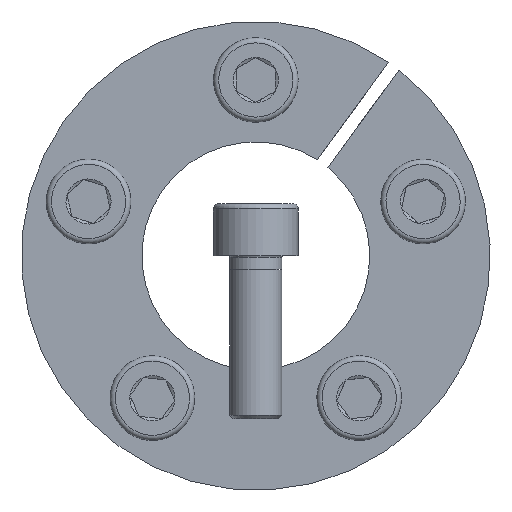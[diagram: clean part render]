
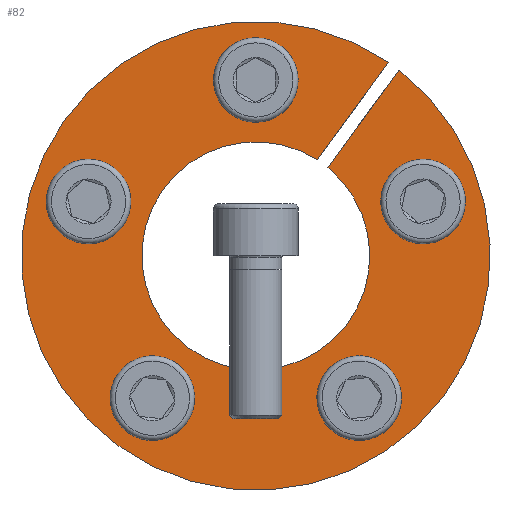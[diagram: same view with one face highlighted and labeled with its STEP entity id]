
A CAD part, front view. The second image highlights one B-rep face of the part: STEP entity #82.
In plain terms, the highlighted planar face has unit normal (0, -1, 0).
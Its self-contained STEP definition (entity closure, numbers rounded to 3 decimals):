
#82 = ADVANCED_FACE( '', ( #173, #174, #175, #176, #177, #178 ), #179, .F. );
#173 = FACE_OUTER_BOUND( '', #293, .T. );
#174 = FACE_BOUND( '', #294, .T. );
#175 = FACE_BOUND( '', #295, .T. );
#176 = FACE_BOUND( '', #296, .T. );
#177 = FACE_BOUND( '', #297, .T. );
#178 = FACE_BOUND( '', #298, .T. );
#179 = PLANE( '', #299 );
#293 = EDGE_LOOP( '', ( #463, #464, #465, #466 ) );
#294 = EDGE_LOOP( '', ( #467 ) );
#295 = EDGE_LOOP( '', ( #468 ) );
#296 = EDGE_LOOP( '', ( #469 ) );
#297 = EDGE_LOOP( '', ( #470 ) );
#298 = EDGE_LOOP( '', ( #471 ) );
#299 = AXIS2_PLACEMENT_3D( '', #472, #473, #474 );
#463 = ORIENTED_EDGE( '', *, *, #681, .T. );
#464 = ORIENTED_EDGE( '', *, *, #676, .T. );
#465 = ORIENTED_EDGE( '', *, *, #682, .T. );
#466 = ORIENTED_EDGE( '', *, *, #683, .F. );
#467 = ORIENTED_EDGE( '', *, *, #678, .F. );
#468 = ORIENTED_EDGE( '', *, *, #684, .F. );
#469 = ORIENTED_EDGE( '', *, *, #685, .F. );
#470 = ORIENTED_EDGE( '', *, *, #686, .F. );
#471 = ORIENTED_EDGE( '', *, *, #657, .F. );
#472 = CARTESIAN_POINT( '', ( 0., 0., 36. ) );
#473 = DIRECTION( '', ( 0., 1., 0. ) );
#474 = DIRECTION( '', ( 1., 0., 0. ) );
#657 = EDGE_CURVE( '', #798, #798, #799, .T. );
#676 = EDGE_CURVE( '', #827, #831, #833, .T. );
#678 = EDGE_CURVE( '', #835, #835, #836, .T. );
#681 = EDGE_CURVE( '', #840, #827, #841, .T. );
#682 = EDGE_CURVE( '', #831, #842, #843, .T. );
#683 = EDGE_CURVE( '', #840, #842, #844, .T. );
#684 = EDGE_CURVE( '', #845, #845, #846, .T. );
#685 = EDGE_CURVE( '', #847, #847, #848, .T. );
#686 = EDGE_CURVE( '', #849, #849, #850, .T. );
#798 = VERTEX_POINT( '', #1063 );
#799 = CIRCLE( '', #1064, 4.5 );
#827 = VERTEX_POINT( '', #1094 );
#831 = VERTEX_POINT( '', #1099 );
#833 = CIRCLE( '', #1102, 36. );
#835 = VERTEX_POINT( '', #1104 );
#836 = CIRCLE( '', #1105, 4.5 );
#840 = VERTEX_POINT( '', #1109 );
#841 = LINE( '', #1110, #1111 );
#842 = VERTEX_POINT( '', #1112 );
#843 = LINE( '', #1113, #1114 );
#844 = CIRCLE( '', #1115, 17.5 );
#845 = VERTEX_POINT( '', #1116 );
#846 = CIRCLE( '', #1117, 4.5 );
#847 = VERTEX_POINT( '', #1118 );
#848 = CIRCLE( '', #1119, 4.5 );
#849 = VERTEX_POINT( '', #1120 );
#850 = CIRCLE( '', #1121, 4.5 );
#1063 = CARTESIAN_POINT( '', ( -24.288, 0., 12.623 ) );
#1064 = AXIS2_PLACEMENT_3D( '', #1226, #1227, #1228 );
#1094 = CARTESIAN_POINT( '', ( 20.343, 0., 29.701 ) );
#1099 = CARTESIAN_POINT( '', ( 21.961, 0., 28.526 ) );
#1102 = AXIS2_PLACEMENT_3D( '', #1263, #1264, #1265 );
#1104 = CARTESIAN_POINT( '', ( 4.5, 0., 27. ) );
#1105 = AXIS2_PLACEMENT_3D( '', #1266, #1267, #1268 );
#1109 = CARTESIAN_POINT( '', ( 9.46, 0., 14.722 ) );
#1110 = CARTESIAN_POINT( '', ( 9.46, 0., 14.722 ) );
#1111 = VECTOR( '', #1272, 1000. );
#1112 = CARTESIAN_POINT( '', ( 11.078, 0., 13.547 ) );
#1113 = CARTESIAN_POINT( '', ( 21.969, 0., 28.537 ) );
#1114 = VECTOR( '', #1273, 1000. );
#1115 = AXIS2_PLACEMENT_3D( '', #1274, #1275, #1276 );
#1116 = CARTESIAN_POINT( '', ( 27.069, 0., 4.064 ) );
#1117 = AXIS2_PLACEMENT_3D( '', #1277, #1278, #1279 );
#1118 = CARTESIAN_POINT( '', ( 12.23, 0., -24.488 ) );
#1119 = AXIS2_PLACEMENT_3D( '', #1280, #1281, #1282 );
#1120 = CARTESIAN_POINT( '', ( -19.511, 0., -19.198 ) );
#1121 = AXIS2_PLACEMENT_3D( '', #1283, #1284, #1285 );
#1226 = CARTESIAN_POINT( '', ( -25.679, 0., 8.343 ) );
#1227 = DIRECTION( '', ( 0., -1., 0. ) );
#1228 = DIRECTION( '', ( 0.309, 0., 0.951 ) );
#1263 = CARTESIAN_POINT( '', ( 0., 0., 0. ) );
#1264 = DIRECTION( '', ( 0., -1., 0. ) );
#1265 = DIRECTION( '', ( 0., 0., -1. ) );
#1266 = CARTESIAN_POINT( '', ( 0., 0., 27. ) );
#1267 = DIRECTION( '', ( 0., -1., 0. ) );
#1268 = DIRECTION( '', ( 1., 0., 0. ) );
#1272 = DIRECTION( '', ( 0.588, 0., 0.809 ) );
#1273 = DIRECTION( '', ( -0.588, 0., -0.809 ) );
#1274 = CARTESIAN_POINT( '', ( 0., 0., 0. ) );
#1275 = DIRECTION( '', ( 0., -1., 0. ) );
#1276 = DIRECTION( '', ( 0., 0., -1. ) );
#1277 = CARTESIAN_POINT( '', ( 25.679, 0., 8.343 ) );
#1278 = DIRECTION( '', ( 0., -1., 0. ) );
#1279 = DIRECTION( '', ( 0.309, 0., -0.951 ) );
#1280 = CARTESIAN_POINT( '', ( 15.87, 0., -21.843 ) );
#1281 = DIRECTION( '', ( 0., -1., 0. ) );
#1282 = DIRECTION( '', ( -0.809, 0., -0.588 ) );
#1283 = CARTESIAN_POINT( '', ( -15.87, 0., -21.843 ) );
#1284 = DIRECTION( '', ( 0., -1., 0. ) );
#1285 = DIRECTION( '', ( -0.809, 0., 0.588 ) );
